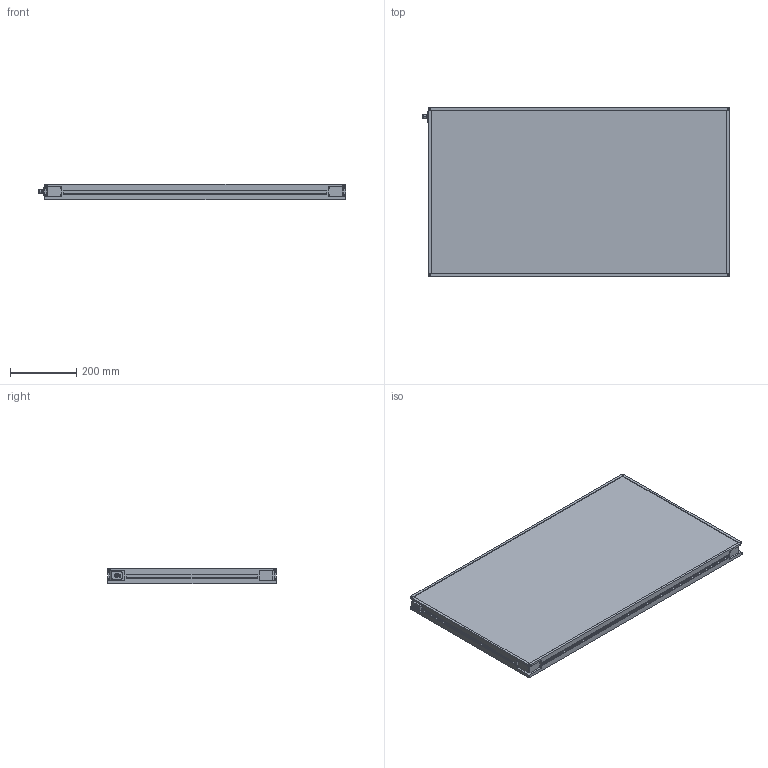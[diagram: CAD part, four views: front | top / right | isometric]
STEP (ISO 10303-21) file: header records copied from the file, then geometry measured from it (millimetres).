
FILE_DESCRIPTION (( 'STEP AP214' ), '1' );
FILE_NAME ('MBACK-xxxx-xxx-M1_CLIENT500x900.STEP', '2022-03-31T16:21:16', ( '' ), ( '' ), 'SwSTEP 2.0', 'SolidWorks 2020', '' );
FILE_SCHEMA (( 'AUTOMOTIVE_DESIGN' ));
Length unit declared in the file: millimetre
Products named in the file (1): MBACK-xxxx-xxx-M1_CLIENT500x900
Bounding box: 925.9 x 508 x 45.5 mm (x, y, z)
Volume: 19178119.7 mm3; surface area: 1110503.6 mm2
Topology: 1 solids, 1 shells, 442 faces, 1144 edges, 760 vertices
Faces by surface type: plane 249, cylinder 105, bspline 80, cone 8
Entity records: 17236 total; most frequent: CARTESIAN_POINT 6699, ORIENTED_EDGE 2288, DIRECTION 1936, EDGE_CURVE 1144, VERTEX_POINT 760, VECTOR 758, LINE 758, AXIS2_PLACEMENT_3D 589
